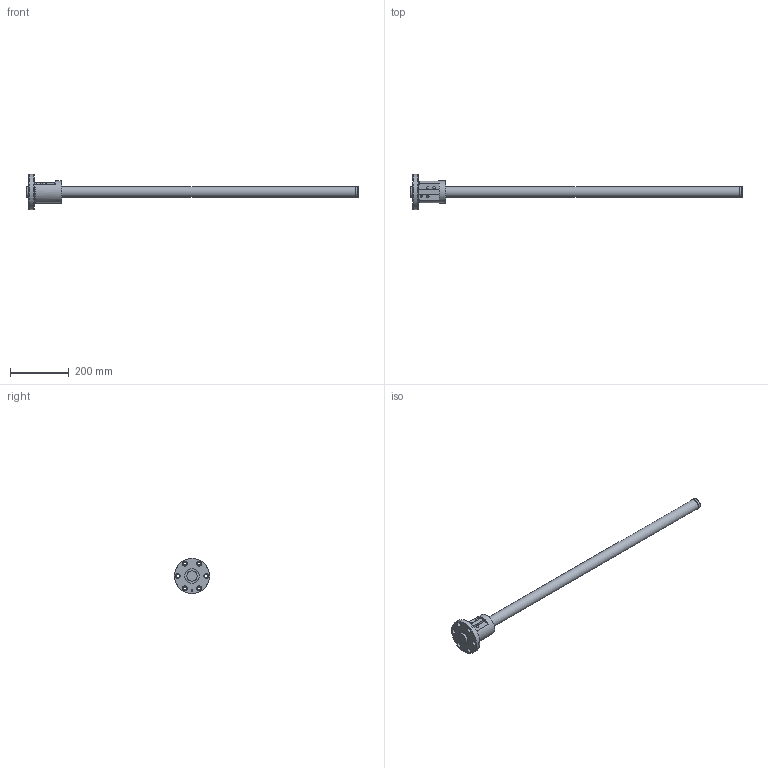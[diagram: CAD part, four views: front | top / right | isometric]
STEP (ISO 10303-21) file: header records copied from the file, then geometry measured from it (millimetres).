
FILE_DESCRIPTION( ( 'STEP AP203' ), ' ' );
FILE_NAME( 'p:/temp/worker_12/2884_3592/app_83_12018011812110000744089818fa3fd_000000_00_00_000000/format_0/BIF3610-5RRG0+1131LC0_10000.stp', '2018-01-18T11:11:01', ( '' ), ( '' ), ' ', 'PARTsolutions', ' ' );
FILE_SCHEMA( ( 'CONFIG_CONTROL_DESIGN' ) );
Length unit declared in the file: millimetre
Products named in the file (3): BIF3610-5RRG0+1131LC0_10000; _BIF 3610-5RR1000500 Shaft; _BIF 3610-5RR Nut
Assembly tree (2 placements, depth 2):
  BIF3610-5RRG0+1131LC0_10000
    _BIF 3610-5RR1000500 Shaft
    _BIF 3610-5RR Nut
Bounding box: 1131 x 120 x 120 mm (x, y, z)
Volume: 1596117.2 mm3; surface area: 199055.4 mm2
Topology: 2 solids, 2 shells, 81 faces, 174 edges, 110 vertices
Faces by surface type: cylinder 39, plane 31, cone 7, torus 4
Full cylindrical faces by diameter (mm): 4.25 x2, 4.917 x1, 7.1 x4, 11 x6, 17.5 x6, 35.5 x2, 36 x4, 49.2 x2, 75 x1, 120 x1
Entity records: 2480 total; most frequent: CARTESIAN_POINT 720, DIRECTION 372, ORIENTED_EDGE 252, AXIS2_PLACEMENT_3D 170, EDGE_LOOP 156, EDGE_CURVE 126, FACE_OUTER_BOUND 110, VERTEX_POINT 100
